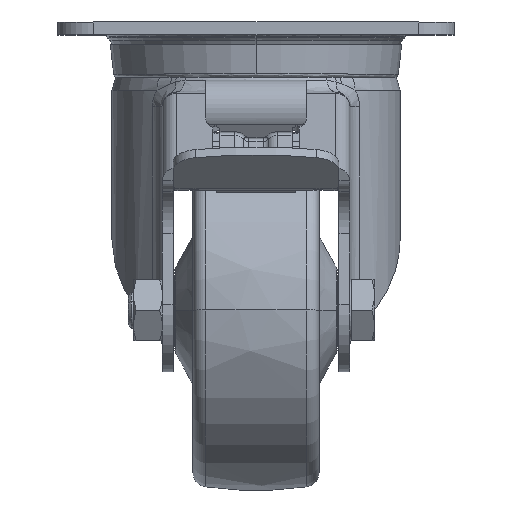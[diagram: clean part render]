
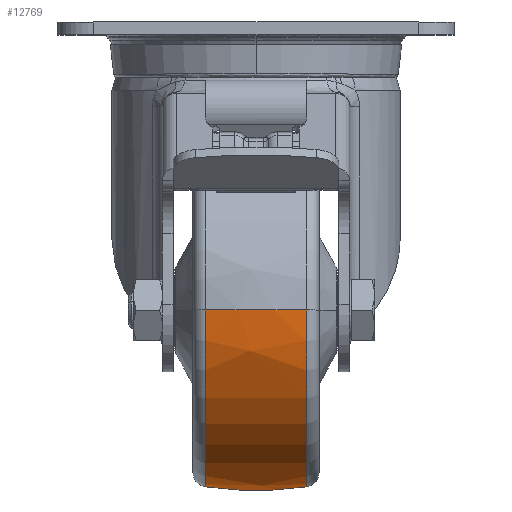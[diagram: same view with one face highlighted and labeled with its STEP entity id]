
A CAD part, top view. The second image highlights one B-rep face of the part: STEP entity #12769.
In plain terms, the highlighted free-form (B-spline) face has degree [3, 3] with [7, 4] control points.
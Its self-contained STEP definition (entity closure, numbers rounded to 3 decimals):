
#7897 = CARTESIAN_POINT ( 'NONE',  ( -4.909, 30.992, 50.361 ) ) ;
#8262 = CARTESIAN_POINT ( 'NONE',  ( -14.063, 49.006, 0. ) ) ;
#8709 = CARTESIAN_POINT ( 'NONE',  ( -4.909, -50.261, -3.162 ) ) ;
#12362 = VERTEX_POINT ( 'NONE', #65690 ) ;
#12489 = VERTEX_POINT ( 'NONE', #95478 ) ;
#12769 = ADVANCED_FACE ( 'NONE', ( #99693 ), #104623, .T. ) ;
#13897 = EDGE_LOOP ( 'NONE', ( #34035, #99652, #54335, #66111 ) ) ;
#13920 = CIRCLE ( 'NONE', #72422, 49.006 ) ;
#17293 = CARTESIAN_POINT ( 'NONE',  ( -14.621, -30.109, 48.925 ) ) ;
#17699 = CARTESIAN_POINT ( 'NONE',  ( -4.909, -52.207, 27.769 ) ) ;
#19731 = AXIS2_PLACEMENT_3D ( 'NONE', #41315, #97340, #105119 ) ;
#19981 = DIRECTION ( 'NONE',  ( 0., 0., 1. ) ) ;
#21644 = CARTESIAN_POINT ( 'NONE',  ( 0., -50., 0. ) ) ;
#25631 = EDGE_CURVE ( 'NONE', #94567, #12489, #46652, .T. ) ;
#27089 = CARTESIAN_POINT ( 'NONE',  ( 14.621, 48.829, -3.072 ) ) ;
#27488 = CARTESIAN_POINT ( 'NONE',  ( -4.909, 50.261, -3.162 ) ) ;
#34035 = ORIENTED_EDGE ( 'NONE', *, *, #95222, .T. ) ;
#35287 = CARTESIAN_POINT ( 'NONE',  ( 14.621, 50.719, 26.977 ) ) ;
#35700 = CARTESIAN_POINT ( 'NONE',  ( 14.621, 0., 48.925 ) ) ;
#36101 = CARTESIAN_POINT ( 'NONE',  ( 4.909, -52.207, 27.769 ) ) ;
#36899 = CARTESIAN_POINT ( 'NONE',  ( 4.909, -30.992, 50.361 ) ) ;
#38453 = CIRCLE ( 'NONE', #19731, 49.006 ) ;
#41175 = CARTESIAN_POINT ( 'NONE',  ( 14.063, 0., 0. ) ) ;
#41315 = CARTESIAN_POINT ( 'NONE',  ( -14.063, 0., 0. ) ) ;
#42147 = CARTESIAN_POINT ( 'NONE',  ( 0., 50., 0. ) ) ;
#45075 = CARTESIAN_POINT ( 'NONE',  ( -14.621, -48.829, -3.072 ) ) ;
#45482 = CARTESIAN_POINT ( 'NONE',  ( -4.909, 0., 50.361 ) ) ;
#45889 = CARTESIAN_POINT ( 'NONE',  ( 4.909, 30.992, 50.361 ) ) ;
#45927 = EDGE_CURVE ( 'NONE', #12489, #116552, #38453, .T. ) ;
#46277 = CARTESIAN_POINT ( 'NONE',  ( -4.909, 52.207, 27.769 ) ) ;
#46652 = CIRCLE ( 'NONE', #55810, 100. ) ;
#51183 = CIRCLE ( 'NONE', #65270, 100. ) ;
#51572 = DIRECTION ( 'NONE',  ( 0.141, -0.99, 0. ) ) ;
#54335 = ORIENTED_EDGE ( 'NONE', *, *, #45927, .F. ) ;
#55810 = AXIS2_PLACEMENT_3D ( 'NONE', #42147, #107616, #51572 ) ;
#63928 = CARTESIAN_POINT ( 'NONE',  ( -14.621, -50.719, 26.977 ) ) ;
#65270 = AXIS2_PLACEMENT_3D ( 'NONE', #21644, #19981, #77216 ) ;
#65690 = CARTESIAN_POINT ( 'NONE',  ( 14.063, 49.006, 0. ) ) ;
#66111 = ORIENTED_EDGE ( 'NONE', *, *, #25631, .F. ) ;
#67669 = EDGE_CURVE ( 'NONE', #12362, #116552, #51183, .T. ) ;
#71259 = CARTESIAN_POINT ( 'NONE',  ( 14.063, -49.006, 0. ) ) ;
#72422 = AXIS2_PLACEMENT_3D ( 'NONE', #41175, #97616, #106609 ) ;
#73704 = CARTESIAN_POINT ( 'NONE',  ( -14.621, 0., 48.925 ) ) ;
#74512 = CARTESIAN_POINT ( 'NONE',  ( 14.621, -48.829, -3.072 ) ) ;
#77216 = DIRECTION ( 'NONE',  ( 0.141, 0.99, 0. ) ) ;
#82732 = CARTESIAN_POINT ( 'NONE',  ( -14.621, 48.829, -3.072 ) ) ;
#83116 = CARTESIAN_POINT ( 'NONE',  ( -14.621, 50.719, 26.977 ) ) ;
#83537 = CARTESIAN_POINT ( 'NONE',  ( 4.909, 0., 50.361 ) ) ;
#83947 = CARTESIAN_POINT ( 'NONE',  ( -14.621, 30.109, 48.925 ) ) ;
#94567 = VERTEX_POINT ( 'NONE', #71259 ) ;
#95222 = EDGE_CURVE ( 'NONE', #94567, #12362, #13920, .T. ) ;
#95478 = CARTESIAN_POINT ( 'NONE',  ( -14.063, -49.006, 0. ) ) ;
#97340 = DIRECTION ( 'NONE',  ( -1., 0., 0. ) ) ;
#97616 = DIRECTION ( 'NONE',  ( -1., 0., 0. ) ) ;
#99652 = ORIENTED_EDGE ( 'NONE', *, *, #67669, .T. ) ;
#99693 = FACE_OUTER_BOUND ( 'NONE', #13897, .T. ) ;
#101119 = CARTESIAN_POINT ( 'NONE',  ( 4.909, -50.261, -3.162 ) ) ;
#104623 =( BOUNDED_SURFACE ( )  B_SPLINE_SURFACE ( 3, 3, ( 
 ( #74512, #101119, #8709, #45075 ),
 ( #119975, #36101, #17699, #63928 ),
 ( #121190, #36899, #110513, #17293 ),
 ( #35700, #83537, #45482, #73704 ),
 ( #110913, #45889, #7897, #83947 ),
 ( #35287, #120389, #46277, #83116 ),
 ( #27089, #111332, #27488, #82732 ) ),
 .UNSPECIFIED., .F., .F., .F. ) 
 B_SPLINE_SURFACE_WITH_KNOTS ( ( 4, 3, 4 ),
 ( 4, 4 ),
 ( 0., 1., 2. ),
 ( 0., 1. ),
 .UNSPECIFIED. ) 
 GEOMETRIC_REPRESENTATION_ITEM ( )  RATIONAL_B_SPLINE_SURFACE ( (
 ( 1.194, 1.185, 1.185, 1.194),
 ( 0.943, 0.936, 0.936, 0.943),
 ( 0.943, 0.936, 0.936, 0.943),
 ( 1.194, 1.185, 1.185, 1.194),
 ( 0.943, 0.936, 0.936, 0.943),
 ( 0.943, 0.936, 0.936, 0.943),
 ( 1.194, 1.185, 1.185, 1.194) ) ) 
 REPRESENTATION_ITEM ( '' )  SURFACE ( )  );
#105119 = DIRECTION ( 'NONE',  ( 0., -1., 0. ) ) ;
#106609 = DIRECTION ( 'NONE',  ( 0., -1., 0. ) ) ;
#107616 = DIRECTION ( 'NONE',  ( 0., 0., -1. ) ) ;
#110513 = CARTESIAN_POINT ( 'NONE',  ( -4.909, -30.992, 50.361 ) ) ;
#110913 = CARTESIAN_POINT ( 'NONE',  ( 14.621, 30.109, 48.925 ) ) ;
#111332 = CARTESIAN_POINT ( 'NONE',  ( 4.909, 50.261, -3.162 ) ) ;
#116552 = VERTEX_POINT ( 'NONE', #8262 ) ;
#119975 = CARTESIAN_POINT ( 'NONE',  ( 14.621, -50.719, 26.977 ) ) ;
#120389 = CARTESIAN_POINT ( 'NONE',  ( 4.909, 52.207, 27.769 ) ) ;
#121190 = CARTESIAN_POINT ( 'NONE',  ( 14.621, -30.109, 48.925 ) ) ;
